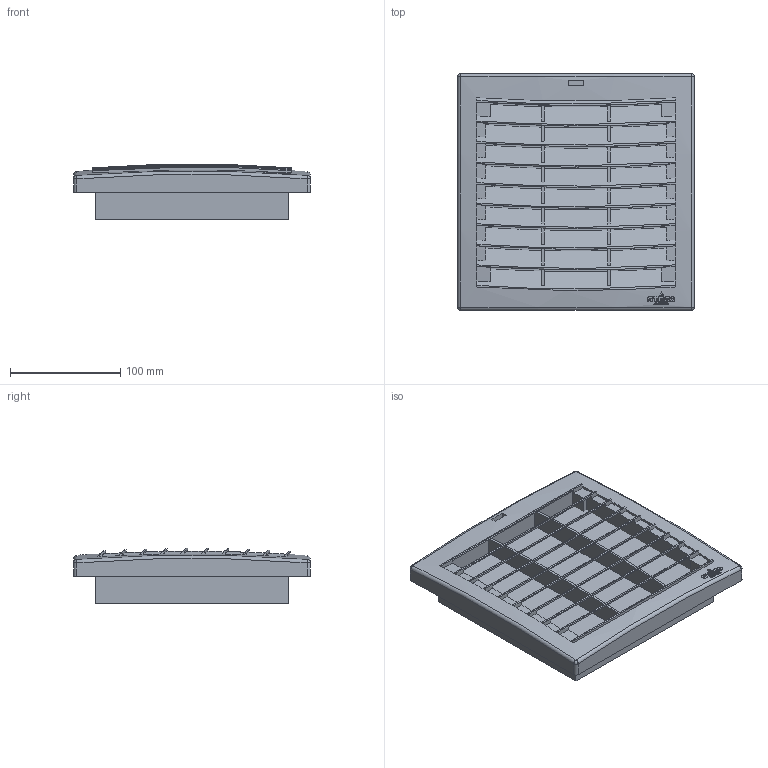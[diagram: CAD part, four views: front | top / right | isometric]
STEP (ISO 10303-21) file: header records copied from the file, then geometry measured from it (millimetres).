
FILE_DESCRIPTION (( 'STEP AP214' ), '1' );
FILE_NAME ('FPO_118_176x176_EPLAN_10_2015.STEP', '2015-10-15T12:41:31', ( '' ), ( '' ), 'SwSTEP 2.0', 'SolidWorks 2015', '' );
FILE_SCHEMA (( 'AUTOMOTIVE_DESIGN' ));
Length unit declared in the file: millimetre
Products named in the file (1): FPO_118_176x176_EPLAN_10_2015
Bounding box: 215 x 215 x 50.39 mm (x, y, z)
Surface area: 213403 mm2 (no closed solid volume)
Topology: 0 solids, 10 shells, 199 faces, 1052 edges, 790 vertices
Faces by surface type: plane 102, sphere 65, bspline 24, torus 4, cylinder 4
Entity records: 13857 total; most frequent: CARTESIAN_POINT 3601, DIRECTION 1704, ORIENTED_EDGE 1550, EDGE_CURVE 1048, VERTEX_POINT 790, AXIS2_PLACEMENT_3D 627, CIRCLE 451, VECTOR 450
